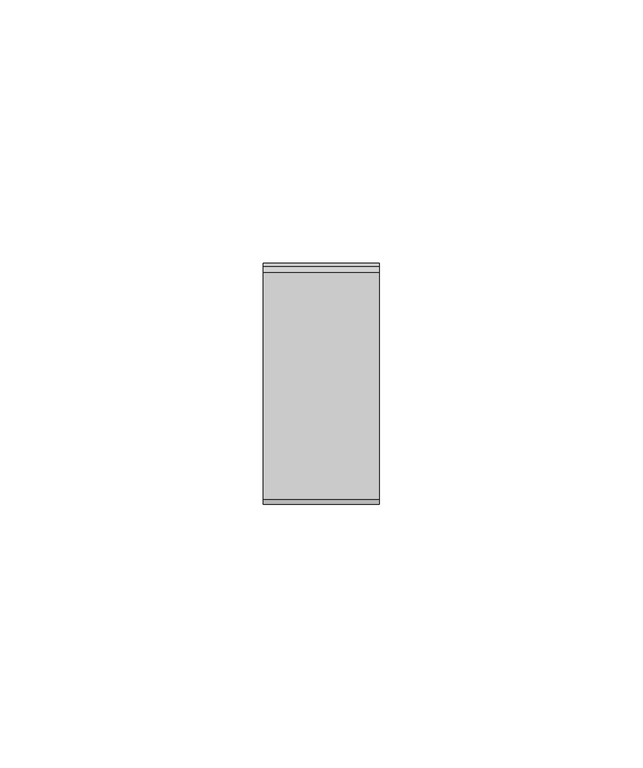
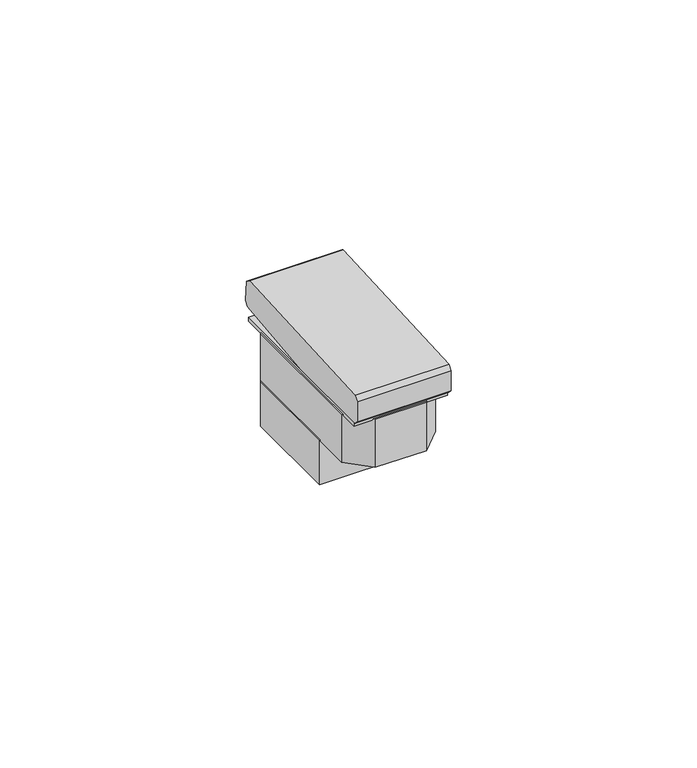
"""IFC4 building model written with IfcOpenShell, lengths in millimetres: proxy geometry, L4001N LL interruttore 1P 16A 1m : L4001N LL Interruttore 1P 16A 1m."""

import ifcopenshell
import ifcopenshell.guid

model = None  # the IFC model being written
_history = None  # IfcOwnerHistory: only IFC2X3 demands one
_inside = {}  # id of a spatial element -> (the spatial element, [elements in it])
_under = {}  # id of a project, library or spatial element -> (it, [spatial elements below it])
_declared = {}  # id of a project -> (the project, [libraries it declares])
_typed = {}  # id of a type object -> (the type object, [elements of that type])
_made_of = {}  # id of a material, layer set ... -> (it, [elements and type objects made of it])


def new_model(schema):
    """Start an empty IFC model of exactly this schema.

    Asked for "IFC4X3", IfcOpenShell would pick the latest addendum, in which some entities
    have other attributes; the version numbers below select the first issue.
    IFC2X3 requires an IfcOwnerHistory on every rooted entity: one is made here for all.
    """
    global model, _history
    if schema == "IFC4X3":
        model = ifcopenshell.file(schema_version=(4, 3, 0, 0))
    else:
        model = ifcopenshell.file(schema=schema)
    _inside.clear()
    _under.clear()
    _declared.clear()
    _typed.clear()
    _made_of.clear()
    _history = None
    if model.schema == "IFC2X3":
        org = make("IfcOrganization", Name="unknown")
        user = make(
            "IfcPersonAndOrganization",
            ThePerson=make("IfcPerson", FamilyName="unknown"),
            TheOrganization=org,
        )
        app = make(
            "IfcApplication",
            ApplicationDeveloper=org,
            Version="unknown",
            ApplicationFullName="unknown",
            ApplicationIdentifier="unknown",
        )
        _history = make(
            "IfcOwnerHistory",
            OwningUser=user,
            OwningApplication=app,
            ChangeAction="ADDED",
            CreationDate=0,
        )
    return model


def make(cls, **values):
    """One entity of the class cls with the attributes given. An attribute that is None is left unset."""
    return model.create_entity(
        cls, **{name: value for name, value in values.items() if value is not None}
    )


def rooted(cls, **values):
    """An entity with a GlobalId (a new one), such as an element, a storey or a relation."""
    return make(cls, GlobalId=ifcopenshell.guid.new(), OwnerHistory=_history, **values)


def si_unit(unit_type, name, prefix=None):
    """IfcSIUnit, for example si_unit("LENGTHUNIT", "METRE", prefix="MILLI")."""
    return make("IfcSIUnit", UnitType=unit_type, Prefix=prefix, Name=name)


def assignment(units):
    """IfcUnitAssignment: the units of a project."""
    return None if units is None else make("IfcUnitAssignment", Units=units)


def point(xyz):
    """IfcCartesianPoint."""
    return None if xyz is None else make("IfcCartesianPoint", Coordinates=xyz)


def direction(xyz):
    """IfcDirection."""
    return None if xyz is None else make("IfcDirection", DirectionRatios=xyz)


def frame(location, z_axis=None, x_axis=None):
    """IfcAxis2Placement3D, a coordinate frame: its origin and axes. An axis left out is left unset."""
    return make(
        "IfcAxis2Placement3D",
        Location=point(location),
        Axis=direction(z_axis),
        RefDirection=direction(x_axis),
    )


def origin():
    """The frame at (0, 0, 0) with its axes left unset."""
    return frame((0.0, 0.0, 0.0))


def origin_with_axes():
    """The frame at (0, 0, 0) with the z axis (0, 0, 1) and the x axis (1, 0, 0) written out."""
    return frame((0.0, 0.0, 0.0), z_axis=(0.0, 0.0, 1.0), x_axis=(1.0, 0.0, 0.0))


def place(relative_to, where):
    """IfcLocalPlacement: puts the frame where relative to a parent placement (None: the world)."""
    return make(
        "IfcLocalPlacement", PlacementRelTo=relative_to, RelativePlacement=where
    )


def context(
    kind, dimensions, precision=None, world=None, true_north=None, identifier=None
):
    """IfcGeometricRepresentationContext, for example the 3D "Model" context."""
    return make(
        "IfcGeometricRepresentationContext",
        ContextIdentifier=identifier,
        ContextType=kind,
        CoordinateSpaceDimension=dimensions,
        Precision=precision,
        WorldCoordinateSystem=world,
        TrueNorth=true_north,
    )


def project(units=None, contexts=None):
    """IfcProject with its units and contexts."""
    return rooted(
        "IfcProject",
        Name="project",
        RepresentationContexts=contexts,
        UnitsInContext=assignment(units),
    )


def spatial(cls, under=None, at=None, **own):
    """A site, building, storey or space (cls), placed at a placement, below another one or the project."""
    s = rooted(cls, ObjectPlacement=at, **own)
    if under is not None:
        _under.setdefault(under.id(), (under, []))[1].append(s)
    return s


def polyline(points):
    """IfcPolyline through the points."""
    return make("IfcPolyline", Points=[point(p) for p in points])


def outline(outer, holes=None, kind="AREA"):
    """IfcArbitraryClosedProfileDef: a profile drawn as a closed curve; with holes, ...WithVoids."""
    if holes is None:
        return make("IfcArbitraryClosedProfileDef", ProfileType=kind, OuterCurve=outer)
    return make(
        "IfcArbitraryProfileDefWithVoids",
        ProfileType=kind,
        OuterCurve=outer,
        InnerCurves=holes,
    )


def extrude(swept, where, along, depth):
    """IfcExtrudedAreaSolid: the profile swept, set in the frame where, extruded along a direction by depth."""
    return make(
        "IfcExtrudedAreaSolid",
        SweptArea=swept,
        Position=where,
        ExtrudedDirection=direction(along),
        Depth=depth,
    )


def shape(context_of_items, identifier, shape_type, items):
    """IfcShapeRepresentation: the items that make up one representation, for example the "Body"."""
    return make(
        "IfcShapeRepresentation",
        ContextOfItems=context_of_items,
        RepresentationIdentifier=identifier,
        RepresentationType=shape_type,
        Items=items,
    )


def source(mapping_origin, context_of_items, identifier, shape_type, items):
    """IfcRepresentationMap: a shape defined once, which mapped items show again and again."""
    return make(
        "IfcRepresentationMap",
        MappingOrigin=mapping_origin,
        MappedRepresentation=shape(context_of_items, identifier, shape_type, items),
    )


def transform(
    local_origin,
    x_axis=None,
    y_axis=None,
    z_axis=None,
    scale=None,
    scale2=None,
    scale3=None,
    uniform=True,
):
    """IfcCartesianTransformationOperator3D, or its non-uniform kind. x_axis, y_axis, z_axis: its Axis1, 2, 3."""
    if uniform:
        return make(
            "IfcCartesianTransformationOperator3D",
            Axis1=direction(x_axis),
            Axis2=direction(y_axis),
            LocalOrigin=point(local_origin),
            Scale=scale,
            Axis3=direction(z_axis),
        )
    return make(
        "IfcCartesianTransformationOperator3DnonUniform",
        Axis1=direction(x_axis),
        Axis2=direction(y_axis),
        LocalOrigin=point(local_origin),
        Scale=scale,
        Axis3=direction(z_axis),
        Scale2=scale2,
        Scale3=scale3,
    )


def mapped(mapping_source, mapping_target):
    """IfcMappedItem: shows the shape of a source again, moved by a transform."""
    return make(
        "IfcMappedItem", MappingSource=mapping_source, MappingTarget=mapping_target
    )


def made_of(thing, what):
    """Note that an element or type object is made of a material, layer set ...; save() writes the relation."""
    if what is not None:
        _made_of.setdefault(what.id(), (what, []))[1].append(thing)
    return thing


def element(
    cls,
    number,
    at=None,
    inside=None,
    cuts=None,
    type_object=None,
    material=None,
    context=None,
    identifier="Body",
    shape_type=None,
    held_by="IfcProductDefinitionShape",
    body=None,
    shapes=None,
    **own,
):
    """One element of the class cls, such as IfcWall. Its Tag is "e" and its number.

    at: its placement. inside: the storey or other place that contains it. cuts: it is an
    opening in that element (IfcRelVoidsElement). A single representation is given by context,
    identifier, shape_type and body (its items); several are given by shapes. held_by: the class
    of the entity that holds the representations. save() writes the other relations.
    """
    e = rooted(cls, Tag="e%d" % number, ObjectPlacement=at, **own)
    if body is not None:
        shapes = [shape(context, identifier, shape_type, body)]
    if shapes is not None:
        e.Representation = make(held_by, Representations=shapes)
    if inside is not None:
        _inside.setdefault(inside.id(), (inside, []))[1].append(e)
    if cuts is not None:
        rooted(
            "IfcRelVoidsElement", RelatingBuildingElement=cuts, RelatedOpeningElement=e
        )
    if type_object is not None:
        _typed.setdefault(type_object.id(), (type_object, []))[1].append(e)
    return made_of(e, material)


def aggregate(whole, parts):
    """IfcRelAggregates: a whole, such as a stair, and the parts it consists of."""
    return rooted("IfcRelAggregates", RelatingObject=whole, RelatedObjects=parts)


def save(model, path):
    """Write the relations noted so far, then the file.

    IfcRelAggregates (storeys below a building ...), IfcRelContainedInSpatialStructure (elements
    in a storey), IfcRelDefinesByType, IfcRelAssociatesMaterial and IfcRelDeclares: one each for
    every whole, place, type object, material and project.
    """
    for whole, parts in _under.values():
        aggregate(whole, parts)
    for where, things in _inside.values():
        rooted(
            "IfcRelContainedInSpatialStructure",
            RelatedElements=things,
            RelatingStructure=where,
        )
    for kind, things in _typed.values():
        rooted("IfcRelDefinesByType", RelatedObjects=things, RelatingType=kind)
    for what, things in _made_of.values():
        rooted("IfcRelAssociatesMaterial", RelatedObjects=things, RelatingMaterial=what)
    for by, libraries in _declared.values():
        rooted("IfcRelDeclares", RelatingContext=by, RelatedDefinitions=libraries)
    model.write(path)


def electrical_fixtures_8fc22a18(model_context):
    return source(origin(), model_context, "Body", "SweptSolid", [
        extrude(outline(polyline([(-22.0, 1.0), (-22.9899495, 1.9899495), (-22.9899495, 6.9899495), (-22.0, 7.979899), (21.0914573, 10.3738688), (22.1849708, 9.4996673), (22.7388169, 4.5304365), (21.8646154, 3.4369231), (0.0, 1.0), (-22.0, 1.0)])), frame((-11.0, 0.0, 0.0), z_axis=(1.0, 0.0, 0.0), x_axis=(0.0, 1.0, 0.0)), (0.0, 0.0, 1.0), 22.0),
        extrude(outline(polyline([(-11.0, -7.5), (-11.0, 16.5), (-9.0, 18.5), (9.0, 18.5), (11.0, 16.5), (11.0, -7.5), (-11.0, -7.5)])), frame((0.0, 0.0, -23.0), z_axis=(0.0, 0.0, 1.0), x_axis=(1.0, 0.0, 0.0)), (0.0, 0.0, 1.0), 11.0),
        extrude(outline(polyline([(11.0, -16.5), (6.0, -21.5), (-6.0, -21.5), (-11.0, -16.5), (-11.0, 16.5), (-6.0, 21.5), (6.0, 21.5), (11.0, 16.5), (11.0, -16.5)])), frame((0.0, 0.0, -12.0), z_axis=(0.0, 0.0, 1.0), x_axis=(1.0, 0.0, 0.0)), (0.0, 0.0, 1.0), 12.0),
        extrude(outline(polyline([(11.0, -21.5), (-11.0, -21.5), (-11.0, 21.5), (11.0, 21.5), (11.0, -21.5)])), origin_with_axes(), (0.0, 0.0, 1.0), 1.0),
    ])


if __name__ == "__main__":
    model = new_model("IFC4")
    model_context = context("Model", 3, world=origin())
    ifc_project = project(units=[si_unit("LENGTHUNIT", "METRE", prefix="MILLI")], contexts=[model_context])
    site = spatial("IfcSite", under=ifc_project)
    building = spatial("IfcBuilding", under=site)
    placement = place(None, origin())
    electrical_fixtures_shape = electrical_fixtures_8fc22a18(model_context)
    element("IfcBuildingElementProxy", 1, Name="L4001N LL interruttore 1P 16A 1m : L4001N LL Interruttore 1P 16A 1m", ObjectType="L4001N LL interruttore 1P 16A 1m : L4001N LL Interruttore 1P 16A 1m", at=placement, inside=building, context=model_context, shape_type="MappedRepresentation", body=[
        mapped(electrical_fixtures_shape, transform((0.0, 0.0, 0.0), x_axis=(1.0, 0.0, 0.0), y_axis=(0.0, 1.0, 0.0), z_axis=(0.0, 0.0, 1.0))),
    ])
    save(model, "model.ifc")
